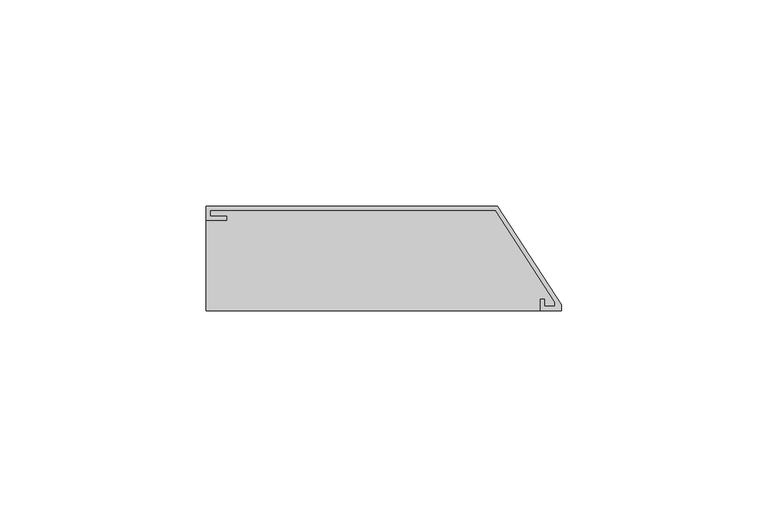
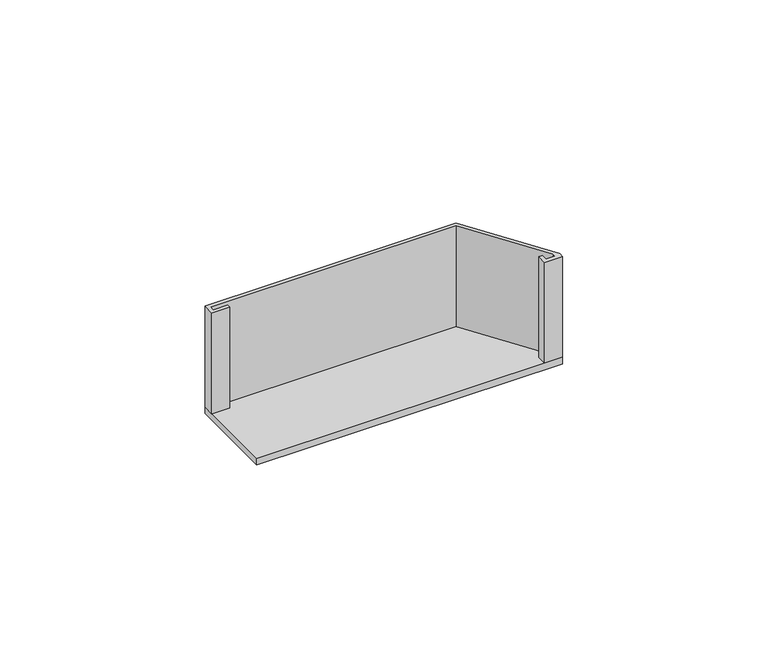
"""IFC4 building model written with IfcOpenShell, lengths in millimetres: proxy geometry, Zakonczenia cokolowe OPC2 : Zakonczenia cokolowe OPC2."""

from ifc_helpers import new_model, si_unit, frame, origin, origin_with_axes, place, context, project, spatial, polyline, outline, extrude, source, transform, mapped, element, save


def generic_models_e965f30e(model_context):
    return source(origin(), model_context, "Body", "SweptSolid", [
        extrude(outline(polyline([(-16.0197434, -1.0), (-85.1982018, -1.0), (-85.1982018, -2.4), (-81.1982018, -2.4), (-81.1982018, -3.4), (-86.1982018, -3.4), (-86.1982018, 0.0), (-15.4759789, 0.0), (0.0, -23.8961983), (0.0, -25.3), (-5.1482018, -25.3), (-5.1482018, -22.5465266), (-4.1482018, -22.5465266), (-4.1482018, -24.3), (-1.5612533, -24.3), (-1.5612533, -23.3251109), (-16.0197434, -1.0)])), origin_with_axes(), (0.0, 0.0, 1.0), 30.0),
        extrude(outline(polyline([(0.0, -23.8961983), (0.0, -25.3), (-86.1982018, -25.3), (-86.1982018, 0.0), (-15.4759789, 0.0), (0.0, -23.8961983)])), frame((0.0, 0.0, -2.0), z_axis=(0.0, 0.0, 1.0), x_axis=(1.0, 0.0, 0.0)), (0.0, 0.0, 1.0), 2.0),
    ])


if __name__ == "__main__":
    model = new_model("IFC4")
    model_context = context("Model", 3, world=origin())
    ifc_project = project(units=[si_unit("LENGTHUNIT", "METRE", prefix="MILLI")], contexts=[model_context])
    site = spatial("IfcSite", under=ifc_project)
    building = spatial("IfcBuilding", under=site)
    placement = place(None, origin())
    generic_models_shape = generic_models_e965f30e(model_context)
    element("IfcBuildingElementProxy", 1, Name="Zakonczenia cokolowe OPC2 : Zakonczenia cokolowe OPC2", ObjectType="Zakonczenia cokolowe OPC2 : Zakonczenia cokolowe OPC2", at=placement, inside=building, context=model_context, shape_type="MappedRepresentation", body=[
        mapped(generic_models_shape, transform((0.0, 0.0, 0.0), x_axis=(1.0, 0.0, 0.0), y_axis=(0.0, 1.0, 0.0), z_axis=(0.0, 0.0, 1.0))),
    ])
    save(model, "model.ifc")
